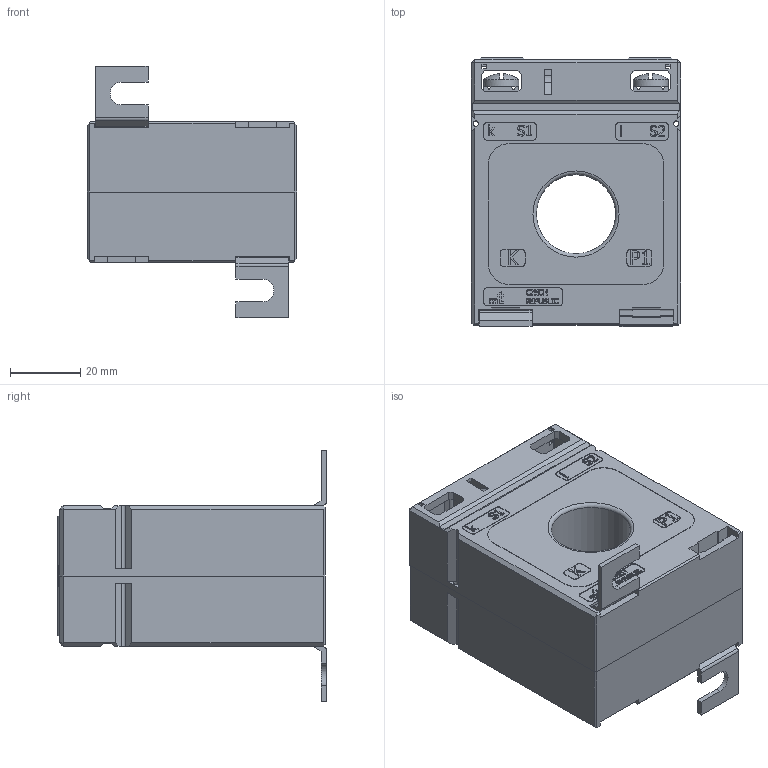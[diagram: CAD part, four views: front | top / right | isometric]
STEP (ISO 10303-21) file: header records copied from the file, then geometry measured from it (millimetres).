
FILE_DESCRIPTION(/* description */ (''),/* implementation_level */ '2;1');
FILE_NAME(/* name */ 'CLB 22R.64.step',/* time_stamp */ '2024-10-09T20:45:11+02:00',/* author */ ('peter'),/* organization */ (''),/* preprocessor_version */ 'ST-DEVELOPER v20',/* originating_system */ 'Autodesk Inventor 2025',/* authorisation */ '');
FILE_SCHEMA (('AUTOMOTIVE_DESIGN { 1 0 10303 214 3 1 1 }'));
Length unit declared in the file: millimetre
Products named in the file (8): Current transformer CLB 22R.64; Front plastic case CLB 22R.64; Back plastic case CLB 22R.64; Tape label CLB 22R.64; Secondary terminal 28 CLB; Secondary terminal cover 37 CLB; Metal mounting foot CLB; Screw M5x8
Assembly tree (13 placements, depth 2):
  Current transformer CLB 22R.64
    Front plastic case CLB 22R.64
    Back plastic case CLB 22R.64
    Tape label CLB 22R.64
    Secondary terminal 28 CLB  x2
    Secondary terminal cover 37 CLB  x2
    Metal mounting foot CLB  x2
    Screw M5x8  x4
Bounding box: 59.5 x 76.4 x 71.5 mm (x, y, z)
Volume: 153262.4 mm3; surface area: 43681.1 mm2
Topology: 13 solids, 13 shells, 1567 faces, 4337 edges, 2870 vertices
Faces by surface type: plane 1017, bspline 394, cylinder 132, cone 14, sphere 8, torus 2
Full cylindrical faces by diameter (mm): 1.5 x4, 2.95 x2, 3 x4, 3.5 x2, 4.134 x4, 5 x4, 10 x4, 22.5 x2
Entity records: 47194 total; most frequent: CARTESIAN_POINT 13097, ORIENTED_EDGE 7812, DIRECTION 5394, EDGE_CURVE 3906, LINE 2878, VECTOR 2878, VERTEX_POINT 2591, EDGE_LOOP 1521
